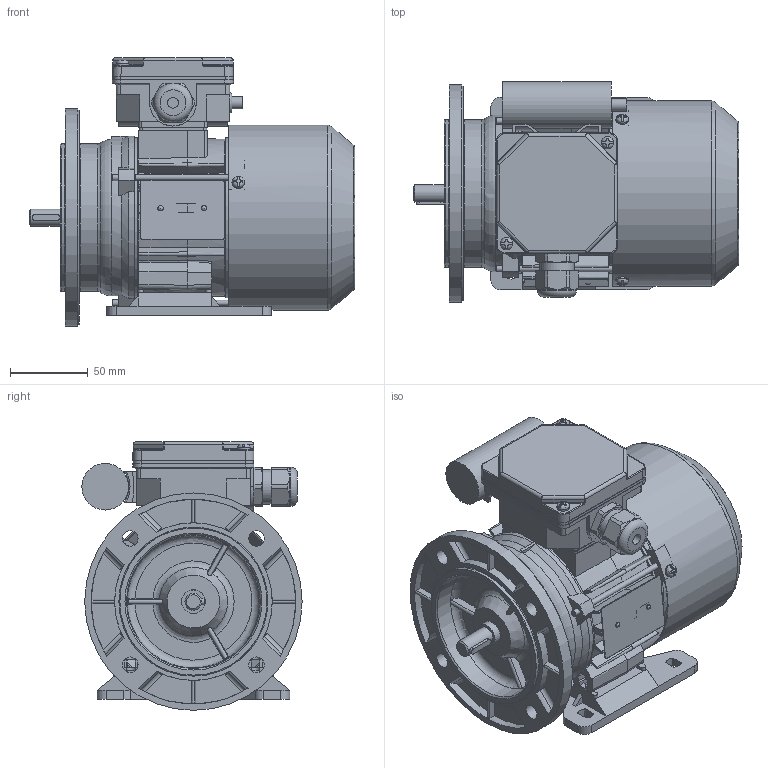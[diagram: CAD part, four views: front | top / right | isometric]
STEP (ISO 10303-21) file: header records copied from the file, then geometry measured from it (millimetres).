
FILE_DESCRIPTION(/* description */ ('Unknown'),/* implementation_level */ '2;1');
FILE_NAME(/* name */ '3SSIEL63-2A',/* time_stamp */ '2024-06-28T10:56:32+02:00',/* author */ ('Unknown'),/* organization */ ('Unknown'),/* preprocessor_version */ 'ST-DEVELOPER v16.7',/* originating_system */ 'Solid Edge',/* authorisation */ 'Unknown');
FILE_SCHEMA (('AUTOMOTIVE_DESIGN {1 0 10303 214 3 1 1}'));
Length unit declared in the file: millimetre
Products named in the file (1): Czêœæ9
Bounding box: 209.49 x 141.82 x 173 mm (x, y, z)
Volume: 633596.8 mm3; surface area: 358991.9 mm2
Topology: 3 solids, 3 shells, 1976 faces, 5600 edges, 3651 vertices
Faces by surface type: plane 1047, cylinder 586, torus 116, cone 112, bspline 94, sphere 21
Full cylindrical faces by diameter (mm): 2.4 x2, 3 x1, 3.7 x7, 4 x8, 4.5 x5, 4.6 x1, 4.8 x2, 5 x2, 5.8 x4, 6.5 x1, 7 x4, 7.999 x1, 8 x6, 10 x4, 10.999 x1, 12.899 x1, 13.099 x1, 14.998 x2, 15.4 x2, 18.998 x2, 19.498 x1, 19.998 x1, 20.098 x1, 21.518 x4, 22.3 x1, 25 x1, 28 x2, 28.48 x4, 29.997 x1, 31 x2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
Entity records: 79959 total; most frequent: CARTESIAN_POINT 16645, ORIENTED_EDGE 10528, DIRECTION 9904, EDGE_CURVE 5264, AXIS2_PLACEMENT_3D 3595, VERTEX_POINT 3525, LINE 2714, VECTOR 2714
